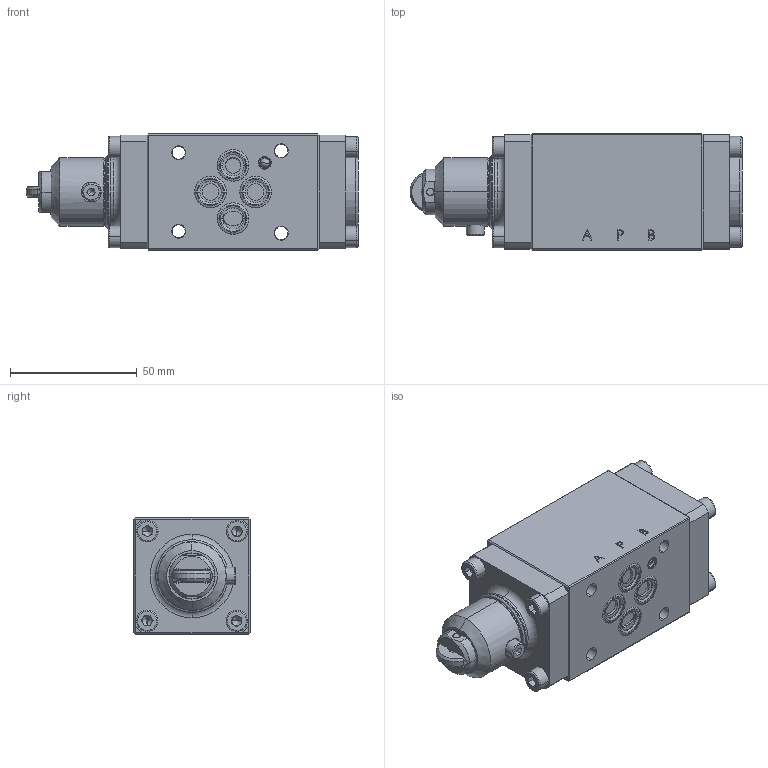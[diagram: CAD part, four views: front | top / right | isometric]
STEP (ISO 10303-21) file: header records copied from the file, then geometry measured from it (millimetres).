
FILE_DESCRIPTION (( 'STEP AP214' ), '1' );
FILE_NAME ('WDTFA06-4_2-Aside.STEP', '2019-06-25T13:26:49', ( '' ), ( '' ), 'SwSTEP 2.0', 'SolidWorks 2018', '' );
FILE_SCHEMA (( 'AUTOMOTIVE_DESIGN' ));
Length unit declared in the file: millimetre
Products named in the file (1): WDTFA06-4_2-Aside
Bounding box: 131.07 x 46 x 46 mm (x, y, z)
Volume: 201384.9 mm3; surface area: 34723.7 mm2
Topology: 11 solids, 21 shells, 671 faces, 1551 edges, 952 vertices
Faces by surface type: plane 287, cylinder 192, cone 84, bspline 53, torus 47, sphere 8
Entity records: 28138 total; most frequent: CARTESIAN_POINT 5573, DIRECTION 3285, ORIENTED_EDGE 3042, EDGE_CURVE 1521, AXIS2_PLACEMENT_3D 1290, VERTEX_POINT 952, EDGE_LOOP 771, VECTOR 705
